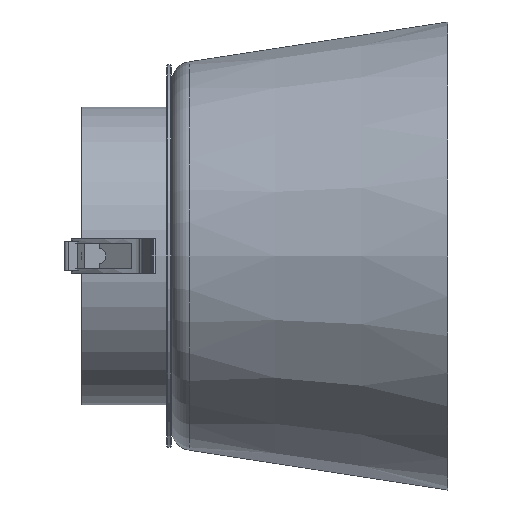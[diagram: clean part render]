
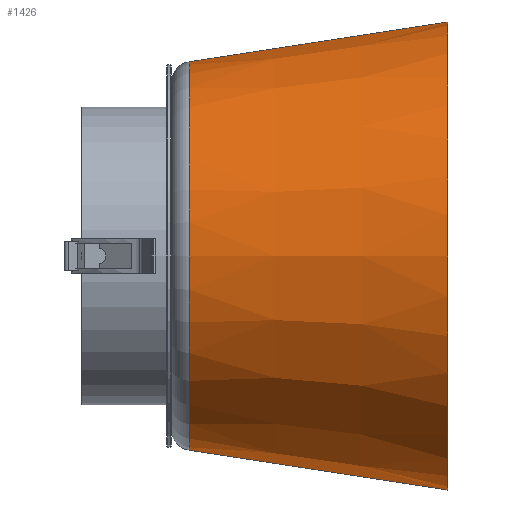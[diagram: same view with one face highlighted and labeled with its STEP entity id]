
A CAD part, left-side view. The second image highlights one B-rep face of the part: STEP entity #1426.
In plain terms, the highlighted conical face has half-angle 8.746 degrees and reference radius 45.652 mm.
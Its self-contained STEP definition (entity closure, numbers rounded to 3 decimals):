
#71 = CARTESIAN_POINT ( 'NONE',  ( 0., 0., -55. ) ) ;
#107 = ORIENTED_EDGE ( 'NONE', *, *, #1632, .T. ) ;
#126 = VERTEX_POINT ( 'NONE', #616 ) ;
#179 = CARTESIAN_POINT ( 'NONE',  ( 0., 60.76, 45.652 ) ) ;
#235 = DIRECTION ( 'NONE',  ( 0., 0., -1. ) ) ;
#416 = EDGE_CURVE ( 'NONE', #3099, #681, #1890, .T. ) ;
#464 = CONICAL_SURFACE ( 'NONE', #2134, 45.652, 0.153 ) ;
#492 = ORIENTED_EDGE ( 'NONE', *, *, #416, .F. ) ;
#563 = CARTESIAN_POINT ( 'NONE',  ( 0., 60.76, 45.652 ) ) ;
#616 = CARTESIAN_POINT ( 'NONE',  ( 0., 60.76, -45.652 ) ) ;
#655 = CARTESIAN_POINT ( 'NONE',  ( 0., 60.76, -45.652 ) ) ;
#681 = VERTEX_POINT ( 'NONE', #2090 ) ;
#754 = EDGE_CURVE ( 'NONE', #681, #2376, #936, .T. ) ;
#792 = AXIS2_PLACEMENT_3D ( 'NONE', #1931, #853, #3239 ) ;
#819 = ORIENTED_EDGE ( 'NONE', *, *, #2321, .T. ) ;
#853 = DIRECTION ( 'NONE',  ( 0., -1., 0. ) ) ;
#936 = CIRCLE ( 'NONE', #2967, 55. ) ;
#1426 = ADVANCED_FACE ( 'NONE', ( #2377 ), #464, .T. ) ;
#1592 = DIRECTION ( 'NONE',  ( 0., -1., 0. ) ) ;
#1632 = EDGE_CURVE ( 'NONE', #126, #2376, #3023, .T. ) ;
#1890 = LINE ( 'NONE', #563, #2803 ) ;
#1892 = DIRECTION ( 'NONE',  ( 0., -1., 0. ) ) ;
#1908 = DIRECTION ( 'NONE',  ( 0., 0., -1. ) ) ;
#1931 = CARTESIAN_POINT ( 'NONE',  ( 0., 60.76, 0. ) ) ;
#2090 = CARTESIAN_POINT ( 'NONE',  ( 0., 0., 55. ) ) ;
#2134 = AXIS2_PLACEMENT_3D ( 'NONE', #2393, #1892, #1908 ) ;
#2321 = EDGE_CURVE ( 'NONE', #3099, #126, #3220, .T. ) ;
#2376 = VERTEX_POINT ( 'NONE', #71 ) ;
#2377 = FACE_OUTER_BOUND ( 'NONE', #2858, .T. ) ;
#2393 = CARTESIAN_POINT ( 'NONE',  ( 0., 60.76, 0. ) ) ;
#2601 = CARTESIAN_POINT ( 'NONE',  ( 0., 0., 0. ) ) ;
#2625 = ORIENTED_EDGE ( 'NONE', *, *, #754, .F. ) ;
#2739 = VECTOR ( 'NONE', #2763, 1000. ) ;
#2763 = DIRECTION ( 'NONE',  ( 0., -0.988, -0.152 ) ) ;
#2803 = VECTOR ( 'NONE', #2965, 1000. ) ;
#2858 = EDGE_LOOP ( 'NONE', ( #492, #819, #107, #2625 ) ) ;
#2965 = DIRECTION ( 'NONE',  ( 0., -0.988, 0.152 ) ) ;
#2967 = AXIS2_PLACEMENT_3D ( 'NONE', #2601, #1592, #235 ) ;
#3023 = LINE ( 'NONE', #655, #2739 ) ;
#3099 = VERTEX_POINT ( 'NONE', #179 ) ;
#3220 = CIRCLE ( 'NONE', #792, 45.652 ) ;
#3239 = DIRECTION ( 'NONE',  ( 0., 0., -1. ) ) ;
